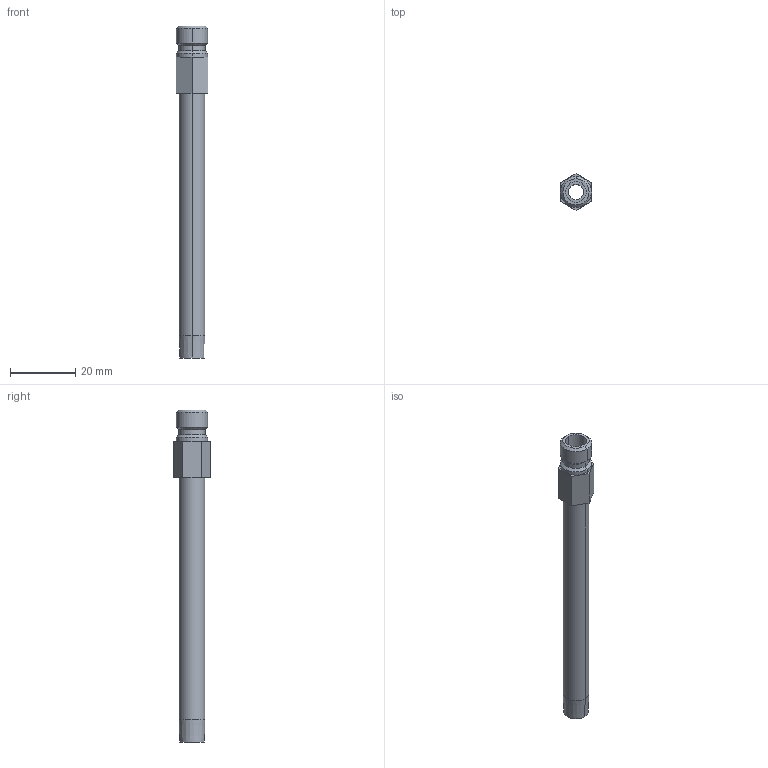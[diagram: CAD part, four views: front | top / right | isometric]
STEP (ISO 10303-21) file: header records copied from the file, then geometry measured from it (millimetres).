
FILE_DESCRIPTION (( 'STEP AP203' ), '1' );
FILE_NAME ('250L4-BSP.step', '2023-03-09T03:34:32', ( '' ), ( '' ), 'SwSTEP 2.0', 'SolidWorks 2020', '' );
FILE_SCHEMA (( 'CONFIG_CONTROL_DESIGN' ));
Length unit declared in the file: inch
Products named in the file (1): 250L4-BSP
Bounding box: 9.78 x 11.29 x 101.6 mm (x, y, z)
Volume: 3585.1 mm3; surface area: 4359.7 mm2
Topology: 1 solids, 1 shells, 31 faces, 66 edges, 40 vertices
Faces by surface type: cylinder 12, plane 11, cone 8
Entity records: 915 total; most frequent: DIRECTION 158, CARTESIAN_POINT 138, ORIENTED_EDGE 132, EDGE_CURVE 66, AXIS2_PLACEMENT_3D 60, VERTEX_POINT 40, VECTOR 38, LINE 38
